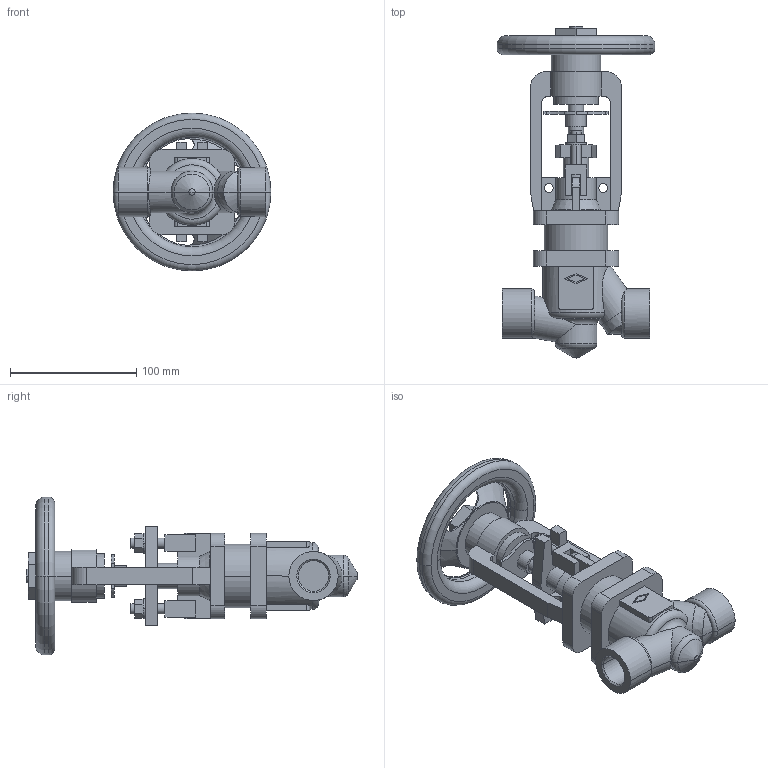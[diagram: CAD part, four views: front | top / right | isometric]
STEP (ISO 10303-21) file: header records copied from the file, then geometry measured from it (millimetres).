
FILE_DESCRIPTION(('OneSpaceDesigner STEP Export'),'2;1');
FILE_NAME('c000004254.stp','2010-05-04T 9:25:28',(''),(''),'OneSpace Designer STEP processor for AP214 (Solid Model)','OneSpace Modeling 15.50B 03-Nov-2007 (C) CoCreate Software GmbH','');
FILE_SCHEMA(('AUTOMOTIVE_DESIGN { 1 0 10303 214 1 1 1 1 }'));
Length unit declared in the file: millimetre
Products named in the file (1): 1
Bounding box: 125 x 262.73 x 125 mm (x, y, z)
Volume: 590039.8 mm3; surface area: 113652.3 mm2
Topology: 1 solids, 1 shells, 286 faces, 760 edges, 495 vertices
Faces by surface type: plane 143, cylinder 97, torus 24, cone 20, sphere 2
Entity records: 11341 total; most frequent: CARTESIAN_POINT 2285, ORIENTED_EDGE 1520, DIRECTION 1272, EDGE_CURVE 760, VERTEX_POINT 495, AXIS2_PLACEMENT_3D 427, VECTOR 418, LINE 418
